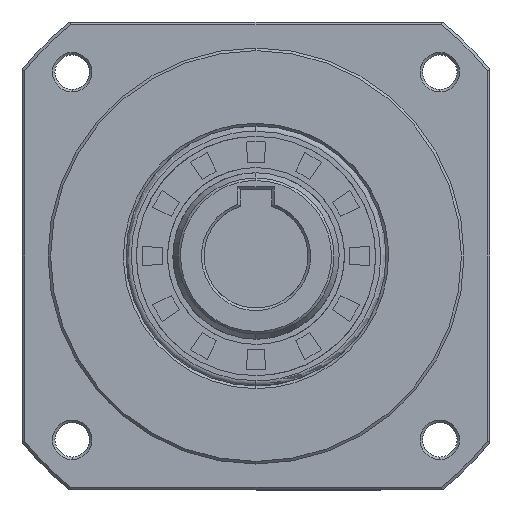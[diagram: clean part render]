
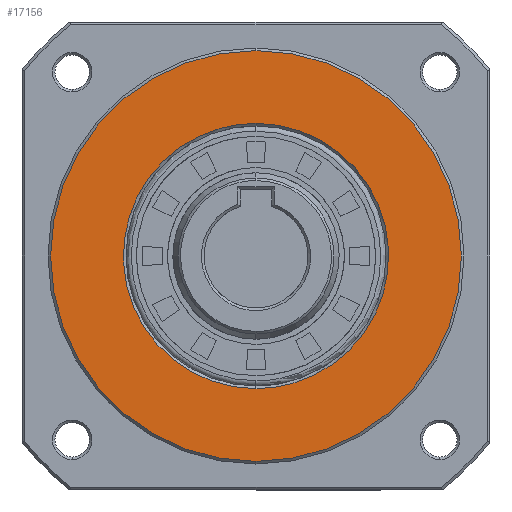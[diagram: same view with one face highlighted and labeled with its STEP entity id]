
A CAD part, left-side view. The second image highlights one B-rep face of the part: STEP entity #17156.
In plain terms, the highlighted planar face has unit normal (-1, 0, 0).
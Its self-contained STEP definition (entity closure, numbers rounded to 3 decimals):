
#75 = CARTESIAN_POINT ( 'NONE',  ( 0., 0., -39.5 ) ) ;
#763 = CARTESIAN_POINT ( 'NONE',  ( 0., -19.215, -16.848 ) ) ;
#1390 = CARTESIAN_POINT ( 'NONE',  ( 0., -11.305, -22.918 ) ) ;
#3211 = CARTESIAN_POINT ( 'NONE',  ( 0., 11.305, -22.918 ) ) ;
#3699 = VERTEX_POINT ( 'NONE', #46888 ) ;
#4723 = FACE_BOUND ( 'NONE', #22676, .T. ) ;
#5509 = EDGE_CURVE ( 'NONE', #3699, #32657, #6353, .T. ) ;
#6353 = CIRCLE ( 'NONE', #32965, 39.5 ) ;
#6572 = CARTESIAN_POINT ( 'NONE',  ( 0., 0., 0. ) ) ;
#7976 = CARTESIAN_POINT ( 'NONE',  ( 0., -1.674, 25.5 ) ) ;
#8937 = CARTESIAN_POINT ( 'NONE',  ( 0., -25.5, 1.674 ) ) ;
#10119 = CARTESIAN_POINT ( 'NONE',  ( 0., 12.775, -22.132 ) ) ;
#10441 = CARTESIAN_POINT ( 'NONE',  ( 0., 0., -25.5 ) ) ;
#14277 = EDGE_LOOP ( 'NONE', ( #94542, #61108 ) ) ;
#15273 = CARTESIAN_POINT ( 'NONE',  ( 0., 0., 25.5 ) ) ;
#15601 = CARTESIAN_POINT ( 'NONE',  ( 0., -3.333, 25.337 ) ) ;
#15912 = CARTESIAN_POINT ( 'NONE',  ( 0., -8.212, 24.2 ) ) ;
#16862 = CARTESIAN_POINT ( 'NONE',  ( 0., -24.2, -8.212 ) ) ;
#17156 = ADVANCED_FACE ( 'NONE', ( #4723, #42488 ), #80730, .F. ) ;
#17202 = CARTESIAN_POINT ( 'NONE',  ( 0., -24.683, -6.617 ) ) ;
#17721 = CARTESIAN_POINT ( 'NONE',  ( 0., 11.305, 22.918 ) ) ;
#18043 = CARTESIAN_POINT ( 'NONE',  ( 0., 1.674, -25.5 ) ) ;
#19015 = CARTESIAN_POINT ( 'NONE',  ( 0., 20.272, -15.559 ) ) ;
#21006 = DIRECTION ( 'NONE',  ( 0., 0., -1. ) ) ;
#22676 = EDGE_LOOP ( 'NONE', ( #88236, #46883 ) ) ;
#23408 = AXIS2_PLACEMENT_3D ( 'NONE', #6572, #59687, #59355 ) ;
#23476 = CARTESIAN_POINT ( 'NONE',  ( 0., -24.2, 8.212 ) ) ;
#23802 = CARTESIAN_POINT ( 'NONE',  ( 0., -12.775, -22.133 ) ) ;
#24452 = CARTESIAN_POINT ( 'NONE',  ( 0., 0., -25.5 ) ) ;
#24795 = CARTESIAN_POINT ( 'NONE',  ( 0., -1.674, -25.5 ) ) ;
#25642 = CARTESIAN_POINT ( 'NONE',  ( 0., 22.133, -12.775 ) ) ;
#25967 = CARTESIAN_POINT ( 'NONE',  ( 0., 19.215, 16.848 ) ) ;
#26620 = CARTESIAN_POINT ( 'NONE',  ( 0., 8.212, -24.2 ) ) ;
#26643 = VERTEX_POINT ( 'NONE', #71057 ) ;
#30743 = CARTESIAN_POINT ( 'NONE',  ( 0., -6.617, 24.683 ) ) ;
#31704 = CARTESIAN_POINT ( 'NONE',  ( 0., -12.775, 22.132 ) ) ;
#32574 = CARTESIAN_POINT ( 'NONE',  ( 0., 24.683, -6.617 ) ) ;
#32657 = VERTEX_POINT ( 'NONE', #75 ) ;
#32908 = CARTESIAN_POINT ( 'NONE',  ( 0., 24.2, 8.212 ) ) ;
#32965 = AXIS2_PLACEMENT_3D ( 'NONE', #67290, #51462, #52748 ) ;
#33565 = CARTESIAN_POINT ( 'NONE',  ( 0., 22.918, 11.305 ) ) ;
#35571 = CARTESIAN_POINT ( 'NONE',  ( 0., -39.974, 39.974 ) ) ;
#37692 = CIRCLE ( 'NONE', #23408, 39.5 ) ;
#38347 = CARTESIAN_POINT ( 'NONE',  ( 0., -20.272, 15.559 ) ) ;
#38673 = CARTESIAN_POINT ( 'NONE',  ( 0., -16.848, 19.215 ) ) ;
#38996 = CARTESIAN_POINT ( 'NONE',  ( 0., -25.5, -1.674 ) ) ;
#40166 = CARTESIAN_POINT ( 'NONE',  ( 0., 25.337, 3.333 ) ) ;
#40823 = CARTESIAN_POINT ( 'NONE',  ( 0., 25.337, -3.333 ) ) ;
#41150 = CARTESIAN_POINT ( 'NONE',  ( 0., 3.333, 25.337 ) ) ;
#41450 = EDGE_CURVE ( 'NONE', #63512, #26643, #81387, .T. ) ;
#42488 = FACE_OUTER_BOUND ( 'NONE', #14277, .T. ) ;
#42775 = CARTESIAN_POINT ( 'NONE',  ( 0., 0., 25.5 ) ) ;
#44898 = EDGE_CURVE ( 'NONE', #26643, #63512, #69453, .T. ) ;
#45891 = CARTESIAN_POINT ( 'NONE',  ( 0., -20.272, -15.559 ) ) ;
#46217 = CARTESIAN_POINT ( 'NONE',  ( 0., -22.918, -11.305 ) ) ;
#46535 = CARTESIAN_POINT ( 'NONE',  ( 0., -25.337, 3.333 ) ) ;
#46855 = CARTESIAN_POINT ( 'NONE',  ( 0., -22.132, -12.775 ) ) ;
#46883 = ORIENTED_EDGE ( 'NONE', *, *, #41450, .T. ) ;
#46888 = CARTESIAN_POINT ( 'NONE',  ( 0., 0., 39.5 ) ) ;
#47178 = CARTESIAN_POINT ( 'NONE',  ( 0., -16.848, -19.215 ) ) ;
#47718 = CARTESIAN_POINT ( 'NONE',  ( 0., 22.132, 12.775 ) ) ;
#48380 = CARTESIAN_POINT ( 'NONE',  ( 0., 8.212, 24.2 ) ) ;
#48715 = CARTESIAN_POINT ( 'NONE',  ( 0., 1.675, 25.5 ) ) ;
#49047 = CARTESIAN_POINT ( 'NONE',  ( 0., 6.617, -24.683 ) ) ;
#51462 = DIRECTION ( 'NONE',  ( 1., 0., 0. ) ) ;
#52748 = DIRECTION ( 'NONE',  ( 0., 0., -1. ) ) ;
#55327 = CARTESIAN_POINT ( 'NONE',  ( 0., 15.559, 20.272 ) ) ;
#55993 = CARTESIAN_POINT ( 'NONE',  ( 0., 15.559, -20.272 ) ) ;
#56645 = CARTESIAN_POINT ( 'NONE',  ( 0., 19.215, -16.848 ) ) ;
#59355 = DIRECTION ( 'NONE',  ( 0., 0., -1. ) ) ;
#59687 = DIRECTION ( 'NONE',  ( 1., 0., 0. ) ) ;
#61108 = ORIENTED_EDGE ( 'NONE', *, *, #5509, .F. ) ;
#61145 = EDGE_CURVE ( 'NONE', #32657, #3699, #37692, .T. ) ;
#61747 = CARTESIAN_POINT ( 'NONE',  ( 0., -8.212, -24.2 ) ) ;
#62396 = CARTESIAN_POINT ( 'NONE',  ( 0., -25.337, -3.333 ) ) ;
#62944 = CARTESIAN_POINT ( 'NONE',  ( 0., 12.775, 22.133 ) ) ;
#63512 = VERTEX_POINT ( 'NONE', #92859 ) ;
#67290 = CARTESIAN_POINT ( 'NONE',  ( 0., 0., 0. ) ) ;
#69013 = CARTESIAN_POINT ( 'NONE',  ( 0., -24.683, 6.617 ) ) ;
#69260 = AXIS2_PLACEMENT_3D ( 'NONE', #35571, #81712, #21006 ) ;
#69453 = B_SPLINE_CURVE_WITH_KNOTS ( 'NONE', 3,
 ( #15273, #7976, #15601, #30743, #15912, #91371, #31704, #69647, #38673, #92024, #38347, #91048, #92353, #23476, #69013, #46535, #8937, #38996, #62396, #17202, #16862, #46217, #46855, #45891, #763, #47178, #76292, #23802, #1390, #61747, #91701, #69972, #24795, #24452 ),
 .UNSPECIFIED., .F., .F.,
 ( 4, 2, 2, 2, 2, 2, 2, 2, 2, 2, 2, 2, 2, 2, 2, 2, 4 ),
 ( 0., 0.031, 0.063, 0.094, 0.125, 0.156, 0.188, 0.219, 0.25, 0.281, 0.313, 0.344, 0.375, 0.406, 0.438, 0.469, 0.5 ),
 .UNSPECIFIED. ) ;
#69647 = CARTESIAN_POINT ( 'NONE',  ( 0., -15.559, 20.272 ) ) ;
#69972 = CARTESIAN_POINT ( 'NONE',  ( 0., -3.333, -25.337 ) ) ;
#70848 = CARTESIAN_POINT ( 'NONE',  ( 0., 16.848, -19.215 ) ) ;
#71057 = CARTESIAN_POINT ( 'NONE',  ( 0., 0., 25.5 ) ) ;
#71169 = CARTESIAN_POINT ( 'NONE',  ( 0., 24.683, 6.617 ) ) ;
#76292 = CARTESIAN_POINT ( 'NONE',  ( 0., -15.559, -20.272 ) ) ;
#78084 = CARTESIAN_POINT ( 'NONE',  ( 0., 25.5, 1.674 ) ) ;
#78426 = CARTESIAN_POINT ( 'NONE',  ( 0., 22.918, -11.305 ) ) ;
#78742 = CARTESIAN_POINT ( 'NONE',  ( 0., 16.848, 19.215 ) ) ;
#80730 = PLANE ( 'NONE',  #69260 ) ;
#81387 = B_SPLINE_CURVE_WITH_KNOTS ( 'NONE', 3,
 ( #10441, #18043, #94236, #49047, #26620, #3211, #10119, #55993, #70848, #56645, #19015, #25642, #78426, #85975, #32574, #40823, #92891, #78084, #40166, #71169, #32908, #33565, #47718, #93557, #25967, #78742, #55327, #62944, #17721, #48380, #86298, #41150, #48715, #42775 ),
 .UNSPECIFIED., .F., .F.,
 ( 4, 2, 2, 2, 2, 2, 2, 2, 2, 2, 2, 2, 2, 2, 2, 2, 4 ),
 ( 0.5, 0.531, 0.563, 0.594, 0.625, 0.656, 0.688, 0.719, 0.75, 0.781, 0.813, 0.844, 0.875, 0.906, 0.938, 0.969, 1. ),
 .UNSPECIFIED. ) ;
#81712 = DIRECTION ( 'NONE',  ( 1., 0., 0. ) ) ;
#85975 = CARTESIAN_POINT ( 'NONE',  ( 0., 24.2, -8.212 ) ) ;
#86298 = CARTESIAN_POINT ( 'NONE',  ( 0., 6.617, 24.683 ) ) ;
#88236 = ORIENTED_EDGE ( 'NONE', *, *, #44898, .T. ) ;
#91048 = CARTESIAN_POINT ( 'NONE',  ( 0., -22.133, 12.775 ) ) ;
#91371 = CARTESIAN_POINT ( 'NONE',  ( 0., -11.305, 22.918 ) ) ;
#91701 = CARTESIAN_POINT ( 'NONE',  ( 0., -6.617, -24.683 ) ) ;
#92024 = CARTESIAN_POINT ( 'NONE',  ( 0., -19.215, 16.848 ) ) ;
#92353 = CARTESIAN_POINT ( 'NONE',  ( 0., -22.918, 11.305 ) ) ;
#92859 = CARTESIAN_POINT ( 'NONE',  ( 0., 0., -25.5 ) ) ;
#92891 = CARTESIAN_POINT ( 'NONE',  ( 0., 25.5, -1.674 ) ) ;
#93557 = CARTESIAN_POINT ( 'NONE',  ( 0., 20.272, 15.559 ) ) ;
#94236 = CARTESIAN_POINT ( 'NONE',  ( 0., 3.333, -25.337 ) ) ;
#94542 = ORIENTED_EDGE ( 'NONE', *, *, #61145, .F. ) ;
